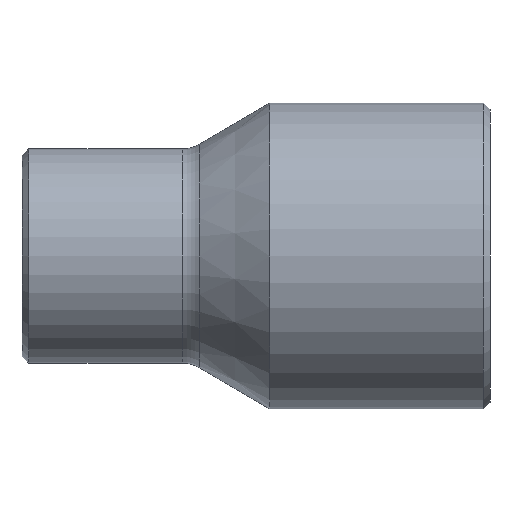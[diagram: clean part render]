
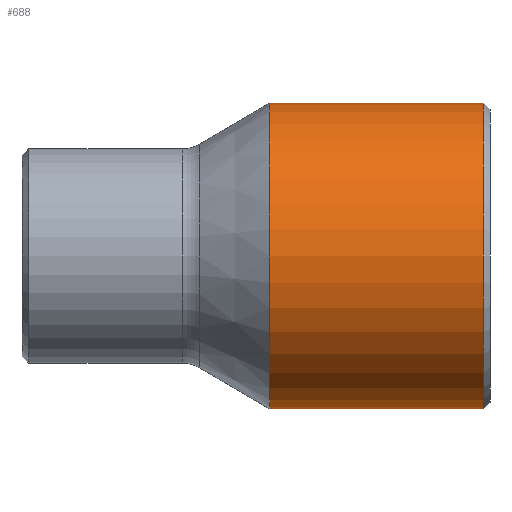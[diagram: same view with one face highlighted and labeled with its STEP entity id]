
A CAD part, left-side view. The second image highlights one B-rep face of the part: STEP entity #688.
In plain terms, the highlighted cylindrical face has radius 45.1 mm (diameter 90.2 mm), a partial arc.
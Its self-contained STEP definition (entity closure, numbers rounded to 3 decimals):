
#7 = ORIENTED_EDGE ( 'NONE', *, *, #734, .F. ) ;
#164 = DIRECTION ( 'NONE',  ( 0., 0., 1. ) ) ;
#165 = DIRECTION ( 'NONE',  ( 0., 1., 0. ) ) ;
#166 = CARTESIAN_POINT ( 'NONE',  ( 0., 2., 0. ) ) ;
#205 = DIRECTION ( 'NONE',  ( 0., -1., 0. ) ) ;
#208 = CARTESIAN_POINT ( 'NONE',  ( 0., -69.433, 45.1 ) ) ;
#215 = DIRECTION ( 'NONE',  ( 0., -1., 0. ) ) ;
#223 = LINE ( 'NONE', #208, #604 ) ;
#234 = LINE ( 'NONE', #265, #605 ) ;
#238 = DIRECTION ( 'NONE',  ( 0., 0., -1. ) ) ;
#239 = DIRECTION ( 'NONE',  ( 0., -1., 0. ) ) ;
#240 = CARTESIAN_POINT ( 'NONE',  ( 0., 65., 0. ) ) ;
#265 = CARTESIAN_POINT ( 'NONE',  ( 0., -69.433, -45.1 ) ) ;
#296 = DIRECTION ( 'NONE',  ( 0., 0., -1. ) ) ;
#297 = CARTESIAN_POINT ( 'NONE',  ( 0., -69.433, 0. ) ) ;
#301 = CYLINDRICAL_SURFACE ( 'NONE', #631, 45.1 ) ;
#305 = DIRECTION ( 'NONE',  ( 0., -1., 0. ) ) ;
#307 = FACE_OUTER_BOUND ( 'NONE', #377, .T. ) ;
#310 = ORIENTED_EDGE ( 'NONE', *, *, #727, .T. ) ;
#311 = ORIENTED_EDGE ( 'NONE', *, *, #732, .T. ) ;
#321 = ORIENTED_EDGE ( 'NONE', *, *, #742, .T. ) ;
#353 = CARTESIAN_POINT ( 'NONE',  ( 0., 65., 45.1 ) ) ;
#370 = CARTESIAN_POINT ( 'NONE',  ( 0., 2., -45.1 ) ) ;
#375 = CARTESIAN_POINT ( 'NONE',  ( 0., 2., 45.1 ) ) ;
#377 = EDGE_LOOP ( 'NONE', ( #7, #310, #311, #321 ) ) ;
#381 = VERTEX_POINT ( 'NONE', #429 ) ;
#386 = VERTEX_POINT ( 'NONE', #375 ) ;
#391 = VERTEX_POINT ( 'NONE', #370 ) ;
#410 = VERTEX_POINT ( 'NONE', #353 ) ;
#429 = CARTESIAN_POINT ( 'NONE',  ( 0., 65., -45.1 ) ) ;
#570 = AXIS2_PLACEMENT_3D ( 'NONE', #166, #165, #164 ) ;
#599 = CIRCLE ( 'NONE', #602, 45.1 ) ;
#602 = AXIS2_PLACEMENT_3D ( 'NONE', #240, #239, #238 ) ;
#604 = VECTOR ( 'NONE', #205, 1000. ) ;
#605 = VECTOR ( 'NONE', #215, 1000. ) ;
#618 = CIRCLE ( 'NONE', #570, 45.1 ) ;
#631 = AXIS2_PLACEMENT_3D ( 'NONE', #297, #305, #296 ) ;
#688 = ADVANCED_FACE ( 'NONE', ( #307 ), #301, .T. ) ;
#727 = EDGE_CURVE ( 'NONE', #410, #381, #599, .T. ) ;
#732 = EDGE_CURVE ( 'NONE', #381, #391, #234, .T. ) ;
#734 = EDGE_CURVE ( 'NONE', #410, #386, #223, .T. ) ;
#742 = EDGE_CURVE ( 'NONE', #391, #386, #618, .T. ) ;
